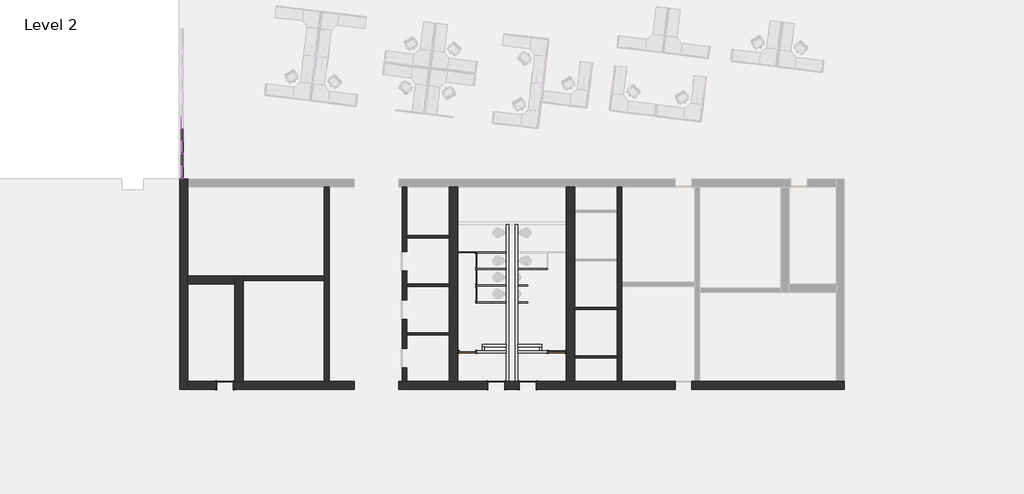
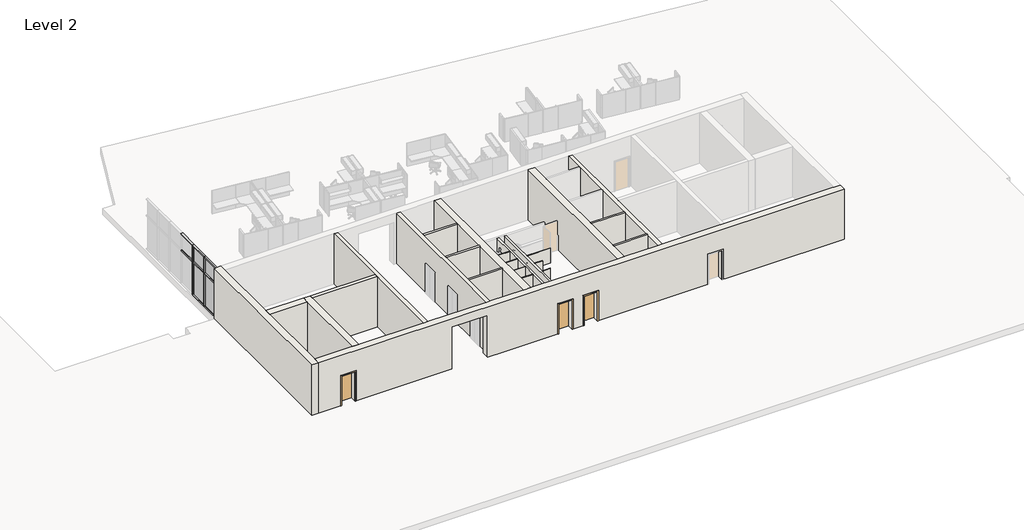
# One storey, part 1 of 7: 32 walls, 14 members, 9 doors, 4 plates.
"""IFC4 building model written with IfcOpenShell, lengths in millimetres."""

from ifc_helpers import new_model, si_unit, frame, origin, place, context, project, spatial, polyline, outline, extrude, faceted_brep, transform, mapped, element, save
from components import door_3c99239a, door_aec9db07, door_a3eb833a, door_a1797ceb, toilet_partitions_2_10_251e7a51, door_871a7840, member_9597caa3, member_b2bde9e6, member_c64c2408, member_866a01fa, member_13474e0d, member_fbf8c6f0, member_d7472725, system_panel_glazed_7f340023, system_panel_glazed_f79f5f4b, system_panel_glazed_02b69887, system_panel_glazed_e5c5d69c

model = new_model("IFC4")

# Units and contexts
model_context = context("Model", 3, world=origin())
ifc_project = project(units=[si_unit("LENGTHUNIT", "METRE", prefix="MILLI")], contexts=[model_context])

# Site, building, storey
site = spatial("IfcSite", under=ifc_project)
building = spatial("IfcBuilding", under=site)
storey = spatial("IfcBuildingStorey", under=building, Name="Level 2", Elevation=3657.6)

# Doors
placement = place(None, origin())
door_shape = door_3c99239a(model_context)
element("IfcDoor", 1, ObjectType="Single-Flush : 36\" x 84\"", at=placement, inside=storey, context=model_context, shape_type="MappedRepresentation", body=[
    mapped(door_shape, transform((-30700.0713641, -14594.8103492, 3657.6), x_axis=(1.0, 0.0, 0.0), y_axis=(0.0, 1.0, 0.0), z_axis=(0.0, 0.0, 1.0))),
])
element("IfcDoor", 2, ObjectType="Single-Flush : 36\" x 84\"", at=placement, inside=storey, context=model_context, shape_type="MappedRepresentation", body=[
    mapped(door_shape, transform((-15804.7856498, -14594.8103492, 3657.6), x_axis=(1.0, 0.0, 0.0), y_axis=(0.0, 1.0, 0.0), z_axis=(0.0, 0.0, 1.0))),
])
door_2_shape = door_aec9db07(model_context)
element("IfcDoor", 3, ObjectType="Single-Flush : 36\" x 84\"", at=placement, inside=storey, context=model_context, shape_type="MappedRepresentation", body=[
    mapped(door_2_shape, transform((-14077.5856498, -14594.8103492, 3657.6), x_axis=(-1.0, 0.0, 0.0), y_axis=(0.0, -1.0, 0.0), z_axis=(0.0, 0.0, 1.0))),
])
door_3_shape = door_a3eb833a(model_context)
element("IfcDoor", 4, ObjectType="Single-Flush : 36\" x 84\"", at=placement, inside=storey, context=model_context, shape_type="MappedRepresentation", body=[
    mapped(door_3_shape, transform((-12487.8428559, -12753.3103492, 3657.6), x_axis=(1.0, 0.0, 0.0), y_axis=(0.0, 1.0, 0.0), z_axis=(0.0, 0.0, 1.0))),
])
door_4_shape = door_a1797ceb(model_context)
element("IfcDoor", 5, ObjectType="Single-Flush : 36\" x 84\"", at=placement, inside=storey, context=model_context, shape_type="MappedRepresentation", body=[
    mapped(door_4_shape, transform((-17394.5284437, -12753.3103492, 3657.6), x_axis=(-1.0, 0.0, 0.0), y_axis=(0.0, -1.0, 0.0), z_axis=(0.0, 0.0, 1.0))),
])
toilet_partitions_2_10_shape = toilet_partitions_2_10_251e7a51(model_context)
element("IfcDoor", 6, ObjectType="toilet Partitions : 2'10", at=placement, inside=storey, context=model_context, shape_type="MappedRepresentation", body=[
    mapped(toilet_partitions_2_10_shape, transform((-17432.6284437, -7282.7853492, 3657.6), x_axis=(-1.0, 0.0, 0.0), y_axis=(0.0, -1.0, 0.0), z_axis=(0.0, 0.0, 1.0))),
])
door_5_shape = door_871a7840(model_context)
element("IfcDoor", 7, ObjectType="toilet Partitions : 2'5\"", at=placement, inside=storey, context=model_context, shape_type="MappedRepresentation", body=[
    mapped(door_5_shape, transform((-16896.9856498, -9568.7853492, 3657.6), x_axis=(0.0, -1.0, 0.0), y_axis=(1.0, 0.0, 0.0), z_axis=(0.0, 0.0, 1.0))),
])
element("IfcDoor", 8, ObjectType="toilet Partitions : 2'5\"", at=placement, inside=storey, context=model_context, shape_type="MappedRepresentation", body=[
    mapped(door_5_shape, transform((-16896.9856498, -7739.9853492, 3657.6), x_axis=(0.0, -1.0, 0.0), y_axis=(1.0, 0.0, 0.0), z_axis=(0.0, 0.0, 1.0))),
])
element("IfcDoor", 9, ObjectType="toilet Partitions : 2'5\"", at=placement, inside=storey, context=model_context, shape_type="MappedRepresentation", body=[
    mapped(door_5_shape, transform((-16896.9856498, -8654.3853492, 3657.6), x_axis=(0.0, -1.0, 0.0), y_axis=(1.0, 0.0, 0.0), z_axis=(0.0, 0.0, 1.0))),
])

# Members
member_shape = member_9597caa3(model_context)
element("IfcMember", 10, ObjectType="Rectangular Mullion : 2.5\" x 5\" rectangular", at=placement, inside=storey, context=model_context, shape_type="MappedRepresentation", body=[
    mapped(member_shape, transform((-33055.0142212, -486.5214603, 3721.1), x_axis=(0.0, -1.0, 0.0), y_axis=(-1.0, 0.0, 0.0), z_axis=(0.0, 0.0, -1.0))),
])
element("IfcMember", 11, ObjectType="Rectangular Mullion : 2.5\" x 5\" rectangular", at=placement, inside=storey, context=model_context, shape_type="MappedRepresentation", body=[
    mapped(member_shape, transform((-33055.0142212, -1863.7659048, 3721.1), x_axis=(0.0, -1.0, 0.0), y_axis=(-1.0, 0.0, 0.0), z_axis=(0.0, 0.0, -1.0))),
])
member_2_shape = member_b2bde9e6(model_context)
element("IfcMember", 12, ObjectType="Rectangular Mullion : 2.5\" x 5\" rectangular", at=placement, inside=storey, context=model_context, shape_type="MappedRepresentation", body=[
    mapped(member_2_shape, transform((-33055.0142212, -3241.0103492, 3721.1), x_axis=(0.0, -1.0, 0.0), y_axis=(-1.0, 0.0, 0.0), z_axis=(0.0, 0.0, -1.0))),
])
member_3_shape = member_c64c2408(model_context)
element("IfcMember", 13, ObjectType="Rectangular Mullion : 2.5\" x 5\" rectangular", at=placement, inside=storey, context=model_context, shape_type="MappedRepresentation", body=[
    mapped(member_3_shape, transform((-33055.0142212, -3241.0103492, 7315.2), x_axis=(0.0, 0.0, 1.0), y_axis=(-1.0, 0.0, 0.0), z_axis=(0.0, -1.0, 0.0))),
])
element("IfcMember", 14, ObjectType="Rectangular Mullion : 2.5\" x 5\" rectangular", at=placement, inside=storey, context=model_context, shape_type="MappedRepresentation", body=[
    mapped(member_3_shape, transform((-33055.0142212, -486.5214603, 7315.2), x_axis=(0.0, 0.0, 1.0), y_axis=(-1.0, 0.0, 0.0), z_axis=(0.0, -1.0, 0.0))),
])
element("IfcMember", 15, ObjectType="Rectangular Mullion : 2.5\" x 5\" rectangular", at=placement, inside=storey, context=model_context, shape_type="MappedRepresentation", body=[
    mapped(member_3_shape, transform((-33055.0142212, -1863.7659048, 7315.2), x_axis=(0.0, 0.0, 1.0), y_axis=(-1.0, 0.0, 0.0), z_axis=(0.0, -1.0, 0.0))),
])
element("IfcMember", 16, ObjectType="Rectangular Mullion : 2.5\" x 5\" rectangular", at=placement, inside=storey, context=model_context, shape_type="MappedRepresentation", body=[
    mapped(member_3_shape, transform((-33055.0142212, -486.5214603, 3657.6), x_axis=(0.0, 0.0, -1.0), y_axis=(-1.0, 0.0, 0.0), z_axis=(0.0, 1.0, 0.0))),
])
element("IfcMember", 17, ObjectType="Rectangular Mullion : 2.5\" x 5\" rectangular", at=placement, inside=storey, context=model_context, shape_type="MappedRepresentation", body=[
    mapped(member_3_shape, transform((-33055.0142212, -1863.7659048, 3657.6), x_axis=(0.0, 0.0, -1.0), y_axis=(-1.0, 0.0, 0.0), z_axis=(0.0, 1.0, 0.0))),
])
member_4_shape = member_866a01fa(model_context)
element("IfcMember", 18, ObjectType="Rectangular Mullion : 2.5\" x 5\" rectangular", at=placement, inside=storey, context=model_context, shape_type="MappedRepresentation", body=[
    mapped(member_4_shape, transform((-33055.0142212, -486.5214603, 6127.75), x_axis=(0.0, -1.0, 0.0), y_axis=(-1.0, 0.0, 0.0), z_axis=(0.0, 0.0, -1.0))),
])
element("IfcMember", 19, ObjectType="Rectangular Mullion : 2.5\" x 5\" rectangular", at=placement, inside=storey, context=model_context, shape_type="MappedRepresentation", body=[
    mapped(member_4_shape, transform((-33055.0142212, -1863.7659048, 6127.75), x_axis=(0.0, -1.0, 0.0), y_axis=(-1.0, 0.0, 0.0), z_axis=(0.0, 0.0, -1.0))),
])
member_5_shape = member_13474e0d(model_context)
element("IfcMember", 20, ObjectType="Rectangular Mullion : 2.5\" x 5\" rectangular", at=placement, inside=storey, context=model_context, shape_type="MappedRepresentation", body=[
    mapped(member_5_shape, transform((-33055.0142212, -486.5214603, 6096.0), x_axis=(0.0, 0.0, 1.0), y_axis=(-1.0, 0.0, 0.0), z_axis=(0.0, -1.0, 0.0))),
])
element("IfcMember", 21, ObjectType="Rectangular Mullion : 2.5\" x 5\" rectangular", at=placement, inside=storey, context=model_context, shape_type="MappedRepresentation", body=[
    mapped(member_5_shape, transform((-33055.0142212, -1863.7659048, 6096.0), x_axis=(0.0, 0.0, 1.0), y_axis=(-1.0, 0.0, 0.0), z_axis=(0.0, -1.0, 0.0))),
])
member_6_shape = member_fbf8c6f0(model_context)
element("IfcMember", 22, ObjectType="Rectangular Mullion : 2.5\" x 5\" rectangular", at=placement, inside=storey, context=model_context, shape_type="MappedRepresentation", body=[
    mapped(member_6_shape, transform((-33055.0142212, -3177.5103492, 6096.0), x_axis=(0.0, 0.0, 1.0), y_axis=(-1.0, 0.0, 0.0), z_axis=(0.0, -1.0, 0.0))),
])
member_7_shape = member_d7472725(model_context)
element("IfcMember", 23, ObjectType="Rectangular Mullion : 2.5\" x 5\" rectangular", at=placement, inside=storey, context=model_context, shape_type="MappedRepresentation", body=[
    mapped(member_7_shape, transform((-33055.0142212, -3241.0103492, 6096.0), x_axis=(0.0, -1.0, 0.0), y_axis=(-1.0, 0.0, 0.0), z_axis=(0.0, 0.0, -1.0))),
])

# Plates
system_panel_glazed_shape = system_panel_glazed_7f340023(model_context)
element("IfcPlate", 24, ObjectType="System Panel : Glazed", at=placement, inside=storey, context=model_context, shape_type="MappedRepresentation", body=[
    mapped(system_panel_glazed_shape, transform((-33055.0142212, -2536.513127, 3721.1), x_axis=(0.0, -1.0, 0.0), y_axis=(1.0, 0.0, 0.0), z_axis=(0.0, 0.0, 1.0))),
])
system_panel_glazed_2_shape = system_panel_glazed_f79f5f4b(model_context)
element("IfcPlate", 25, ObjectType="System Panel : Glazed", at=placement, inside=storey, context=model_context, shape_type="MappedRepresentation", body=[
    mapped(system_panel_glazed_2_shape, transform((-33055.0142212, -1175.1436825, 3721.1), x_axis=(0.0, -1.0, 0.0), y_axis=(1.0, 0.0, 0.0), z_axis=(0.0, 0.0, 1.0))),
])
system_panel_glazed_3_shape = system_panel_glazed_02b69887(model_context)
element("IfcPlate", 26, ObjectType="System Panel : Glazed", at=placement, inside=storey, context=model_context, shape_type="MappedRepresentation", body=[
    mapped(system_panel_glazed_3_shape, transform((-33055.0142212, -2536.513127, 6127.75), x_axis=(0.0, -1.0, 0.0), y_axis=(1.0, 0.0, 0.0), z_axis=(0.0, 0.0, 1.0))),
])
system_panel_glazed_4_shape = system_panel_glazed_e5c5d69c(model_context)
element("IfcPlate", 27, ObjectType="System Panel : Glazed", at=placement, inside=storey, context=model_context, shape_type="MappedRepresentation", body=[
    mapped(system_panel_glazed_4_shape, transform((-33055.0142212, -1175.1436825, 6127.75), x_axis=(0.0, -1.0, 0.0), y_axis=(1.0, 0.0, 0.0), z_axis=(0.0, 0.0, 1.0))),
])

# Walls
element("IfcWall", 28, ObjectType="Core-shaft 10\" Concrete", at=placement, inside=storey, context=model_context, shape_type="SweptSolid", body=[
    extrude(outline(polyline([(-14366.2103492, 7315.2), (-3698.2103492, 7315.2), (-3698.2103492, 3657.6), (-7222.4603492, 3657.6), (-7222.4603492, 5816.6), (-8301.9603492, 5816.6), (-8301.9603492, 3657.6), (-9889.4603492, 3657.6), (-9889.4603492, 5816.6), (-10968.9603492, 5816.6), (-10968.9603492, 3657.6), (-12556.4603492, 3657.6), (-12556.4603492, 5816.6), (-13635.9603492, 5816.6), (-13635.9603492, 3657.6), (-14366.2103492, 3657.6), (-14366.2103492, 7315.2)])), frame((-20979.1285069, 0.0, 0.0), z_axis=(1.0, 0.0, 0.0), x_axis=(0.0, 1.0, 0.0)), (0.0, 0.0, 1.0), 254.0),
])
element("IfcWall", 29, ObjectType="Core-shaft 10\" Concrete", at=placement, inside=storey, context=model_context, shape_type="Brep", body=[
    faceted_brep([(-24992.3285069, -14366.2103492, 3657.6), (-24992.3285069, -3698.2103492, 3657.6), (-24992.3285069, -3698.2103492, 7315.2), (-24992.3285069, -14366.2103492, 7315.2), (-25246.3285069, -14366.2103492, 3657.6), (-25246.3285069, -14366.2103492, 7315.2), (-25246.3285069, -8829.0103492, 7315.2), (-25246.3285069, -8575.0103492, 7315.2), (-25246.3285069, -3698.2103492, 7315.2), (-25246.3285069, -3698.2103492, 3657.6), (-25246.3285069, -8575.0103492, 3657.6), (-25246.3285069, -8829.0103492, 3657.6)], [[[0, 1, 2, 3]], [[4, 5, 6, 7, 8, 9, 10, 11]], [[1, 0, 4, 11, 10, 9]], [[3, 2, 8, 7, 6, 5]], [[0, 3, 5, 4]], [[2, 1, 9, 8]]]),
])
element("IfcWall", 30, ObjectType="Core-shaft 10\" Concrete", at=placement, inside=storey, context=model_context, shape_type="SweptSolid", body=[
    extrude(outline(polyline([(-25246.3285069, -8829.0103492), (-29709.4713641, -8829.0103492), (-29709.4713641, -8575.0103492), (-25246.3285069, -8575.0103492), (-25246.3285069, -8829.0103492)])), frame((0.0, 0.0, 3657.6), z_axis=(0.0, 0.0, 1.0), x_axis=(1.0, 0.0, 0.0)), (0.0, 0.0, 1.0), 3657.6),
])
element("IfcWall", 31, ObjectType="Core-shaft 10\" Concrete", at=placement, inside=storey, context=model_context, shape_type="SweptSolid", body=[
    extrude(outline(polyline([(-8903.2427926, -3698.2103492), (-8903.2427926, -14366.2103492), (-9157.2427926, -14366.2103492), (-9157.2427926, -3698.2103492), (-8903.2427926, -3698.2103492)])), frame((0.0, 0.0, 3657.6), z_axis=(0.0, 0.0, 1.0), x_axis=(1.0, 0.0, 0.0)), (0.0, 0.0, 1.0), 3657.6),
])
element("IfcWall", 32, ObjectType="Core-shaft 18\" Concrete", at=placement, inside=storey, context=model_context, shape_type="Brep", body=[
    faceted_brep([(-14534.7856498, -14366.2103492, 5791.2), (-14534.7856498, -14366.2103492, 3657.6), (-15347.5856498, -14366.2103492, 3657.6), (-15347.5856498, -14366.2103492, 5791.2), (-16261.9856498, -14366.2103492, 5791.2), (-16261.9856498, -14366.2103492, 3657.6), (-17927.9284437, -14366.2103492, 3657.6), (-18385.1284437, -14366.2103492, 3657.6), (-20725.1285069, -14366.2103492, 3657.6), (-20979.1285069, -14366.2103492, 3657.6), (-21167.8142212, -14366.2103492, 3657.6), (-21167.8142212, -14366.2103492, 6705.6), (-23606.2142212, -14366.2103492, 6705.6), (-23606.2142212, -14366.2103492, 3657.6), (-24992.3285069, -14366.2103492, 3657.6), (-25246.3285069, -14366.2103492, 3657.6), (-29709.4713641, -14366.2103492, 3657.6), (-30166.6713641, -14366.2103492, 3657.6), (-30242.8713641, -14366.2103492, 3657.6), (-30242.8713641, -14366.2103492, 5791.2), (-31157.2713641, -14366.2103492, 5791.2), (-31157.2713641, -14366.2103492, 3657.6), (-32750.2142212, -14366.2103492, 3657.6), (-32750.2142212, -14366.2103492, 7315.2), (-30166.6713641, -14366.2103492, 7315.2), (-29709.4713641, -14366.2103492, 7315.2), (-25246.3285069, -14366.2103492, 7315.2), (-24992.3285069, -14366.2103492, 7315.2), (-20979.1285069, -14366.2103492, 7315.2), (-20725.1285069, -14366.2103492, 7315.2), (-18385.1284437, -14366.2103492, 7315.2), (-17927.9284437, -14366.2103492, 7315.2), (-11954.4428559, -14366.2103492, 7315.2), (-11497.2428559, -14366.2103492, 7315.2), (-9157.2427926, -14366.2103492, 7315.2), (-8903.2427926, -14366.2103492, 7315.2), (-4890.0427926, -14366.2103492, 7315.2), (-4636.0427926, -14366.2103492, 7315.2), (2867.8429217, -14366.2103492, 7315.2), (3325.0429217, -14366.2103492, 7315.2), (3325.0429217, -14366.2103492, 3657.6), (2867.8429217, -14366.2103492, 3657.6), (-4636.0427926, -14366.2103492, 3657.6), (-4890.0427926, -14366.2103492, 3657.6), (-5067.8427926, -14366.2103492, 3657.6), (-5067.8427926, -14366.2103492, 5791.2), (-5982.2427926, -14366.2103492, 5791.2), (-5982.2427926, -14366.2103492, 3657.6), (-8903.2427926, -14366.2103492, 3657.6), (-9157.2427926, -14366.2103492, 3657.6), (-11497.2428559, -14366.2103492, 3657.6), (-11954.4428559, -14366.2103492, 3657.6), (-13620.3856498, -14366.2103492, 3657.6), (-13620.3856498, -14366.2103492, 5791.2), (-15347.5856498, -14823.4103492, 3657.6), (-14534.7856498, -14823.4103492, 3657.6), (-14534.7856498, -14823.4103492, 5791.2), (-13620.3856498, -14823.4103492, 5791.2), (-13620.3856498, -14823.4103492, 3657.6), (-5982.2427926, -14823.4103492, 3657.6), (-5982.2427926, -14823.4103492, 5791.2), (-5067.8427926, -14823.4103492, 5791.2), (-5067.8427926, -14823.4103492, 3657.6), (3325.0429217, -14823.4103492, 3657.6), (3325.0429217, -14823.4103492, 7315.2), (-32750.2142212, -14823.4103492, 7315.2), (-32750.2142212, -14823.4103492, 3657.6), (-31157.2713641, -14823.4103492, 3657.6), (-31157.2713641, -14823.4103492, 5791.2), (-30242.8713641, -14823.4103492, 5791.2), (-30242.8713641, -14823.4103492, 3657.6), (-23606.2142212, -14823.4103492, 3657.6), (-23606.2142212, -14823.4103492, 6705.6), (-21167.8142212, -14823.4103492, 6705.6), (-21167.8142212, -14823.4103492, 3657.6), (-16261.9856498, -14823.4103492, 3657.6), (-16261.9856498, -14823.4103492, 5791.2), (-15347.5856498, -14823.4103492, 5791.2)], [[[0, 1, 2, 3, 4, 5, 6, 7, 8, 9, 10, 11, 12, 13, 14, 15, 16, 17, 18, 19, 20, 21, 22, 23, 24, 25, 26, 27, 28, 29, 30, 31, 32, 33, 34, 35, 36, 37, 38, 39, 40, 41, 42, 43, 44, 45, 46, 47, 48, 49, 50, 51, 52, 53]], [[54, 55, 56, 57, 58, 59, 60, 61, 62, 63, 64, 65, 66, 67, 68, 69, 70, 71, 72, 73, 74, 75, 76, 77]], [[67, 66, 22, 21]], [[71, 70, 18, 17, 16, 15, 14, 13]], [[63, 62, 44, 43, 42, 41, 40]], [[75, 74, 10, 9, 8, 7, 6, 5]], [[2, 1, 55, 54]], [[52, 51, 50, 49, 48, 47, 59, 58]], [[39, 38, 37, 36, 35, 34, 33, 32, 31, 30, 29, 28, 27, 26, 25, 24, 23, 65, 64]], [[11, 73, 72, 12]], [[73, 11, 10, 74]], [[12, 72, 71, 13]], [[19, 18, 70, 69]], [[20, 19, 69, 68]], [[21, 20, 68, 67]], [[45, 44, 62, 61]], [[46, 45, 61, 60]], [[47, 46, 60, 59]], [[40, 39, 64, 63]], [[23, 22, 66, 65]], [[3, 2, 54, 77]], [[4, 3, 77, 76]], [[5, 4, 76, 75]], [[56, 55, 1, 0]], [[57, 56, 0, 53]], [[58, 57, 53, 52]]]),
])
element("IfcWall", 33, ObjectType="Core-shaft 18\" Concrete", at=placement, inside=storey, context=model_context, shape_type="Brep", body=[
    faceted_brep([(-32750.2142212, -14823.4103492, 3657.6), (-32750.2142212, -14366.2103492, 3657.6), (-32750.2142212, -9032.2103492, 3657.6), (-32750.2142212, -8575.0103492, 3657.6), (-32750.2142212, -3698.2103492, 3657.6), (-32750.2142212, -3241.0103492, 3657.6), (-32750.2142212, -3241.0103492, 7315.2), (-32750.2142212, -3698.2103492, 7315.2), (-32750.2142212, -8575.0103492, 7315.2), (-32750.2142212, -9032.2103492, 7315.2), (-32750.2142212, -14366.2103492, 7315.2), (-32750.2142212, -14823.4103492, 7315.2), (-33207.4142212, -14823.4103492, 3657.6), (-33207.4142212, -14823.4103492, 7315.2), (-33207.4142212, -3241.0103492, 7315.2), (-33207.4142212, -3241.0103492, 3657.6)], [[[0, 1, 2, 3, 4, 5, 6, 7, 8, 9, 10, 11]], [[12, 13, 14, 15]], [[5, 4, 3, 2, 1, 0, 12, 15]], [[11, 10, 9, 8, 7, 6, 14, 13]], [[0, 11, 13, 12]], [[6, 5, 15, 14]]]),
])
element("IfcWall", 34, ObjectType="Core-shaft 18\" Concrete", at=placement, inside=storey, context=model_context, shape_type="SweptSolid", body=[
    extrude(outline(polyline([(-18385.1284437, -14366.2103492), (-18385.1284437, -3698.2103492), (-17927.9284437, -3698.2103492), (-17927.9284437, -14366.2103492), (-18385.1284437, -14366.2103492)])), frame((0.0, 0.0, 3657.6), z_axis=(0.0, 0.0, 1.0), x_axis=(1.0, 0.0, 0.0)), (0.0, 0.0, 1.0), 3657.6),
])
element("IfcWall", 35, ObjectType="Core-shaft 18\" Concrete", at=placement, inside=storey, context=model_context, shape_type="Brep", body=[
    faceted_brep([(-29709.4713641, -14366.2103492, 3657.6), (-29709.4713641, -8829.0103492, 3657.6), (-29709.4713641, -8575.0103492, 3657.6), (-29709.4713641, -8575.0103492, 7315.2), (-29709.4713641, -8829.0103492, 7315.2), (-29709.4713641, -14366.2103492, 7315.2), (-30166.6713641, -14366.2103492, 3657.6), (-30166.6713641, -14366.2103492, 7315.2), (-30166.6713641, -9032.2103492, 7315.2), (-30166.6713641, -8575.0103492, 7315.2), (-30166.6713641, -8575.0103492, 3657.6), (-30166.6713641, -9032.2103492, 3657.6)], [[[0, 1, 2, 3, 4, 5]], [[6, 7, 8, 9, 10, 11]], [[2, 1, 0, 6, 11, 10]], [[5, 4, 3, 9, 8, 7]], [[3, 2, 10, 9]], [[0, 5, 7, 6]]]),
])
element("IfcWall", 36, ObjectType="Core-shaft 18\" Concrete", at=placement, inside=storey, context=model_context, shape_type="SweptSolid", body=[
    extrude(outline(polyline([(-32750.2142212, -8575.0103492), (-30166.6713641, -8575.0103492), (-30166.6713641, -9032.2103492), (-32750.2142212, -9032.2103492), (-32750.2142212, -8575.0103492)])), frame((0.0, 0.0, 3657.6), z_axis=(0.0, 0.0, 1.0), x_axis=(1.0, 0.0, 0.0)), (0.0, 0.0, 1.0), 3657.6),
])
element("IfcWall", 37, ObjectType="Core-shaft 18\" Concrete", at=placement, inside=storey, context=model_context, shape_type="SweptSolid", body=[
    extrude(outline(polyline([(-11954.4428559, -14366.2103492), (-11954.4428559, -3698.2103492), (-11497.2428559, -3698.2103492), (-11497.2428559, -14366.2103492), (-11954.4428559, -14366.2103492)])), frame((0.0, 0.0, 3657.6), z_axis=(0.0, 0.0, 1.0), x_axis=(1.0, 0.0, 0.0)), (0.0, 0.0, 1.0), 3657.6),
])
element("IfcWall", 38, ObjectType="Generic - 5\"", at=placement, inside=storey, context=model_context, shape_type="SweptSolid", body=[
    extrude(outline(polyline([(-18385.1284437, -11826.2103492), (-20725.1285069, -11826.2103492), (-20725.1285069, -11699.2103492), (-18385.1284437, -11699.2103492), (-18385.1284437, -11826.2103492)])), frame((0.0, 0.0, 3657.6), z_axis=(0.0, 0.0, 1.0), x_axis=(1.0, 0.0, 0.0)), (0.0, 0.0, 1.0), 3657.6),
])
element("IfcWall", 39, ObjectType="Generic - 5\"", at=placement, inside=storey, context=model_context, shape_type="SweptSolid", body=[
    extrude(outline(polyline([(-18385.1284437, -9159.2103492), (-20725.1285069, -9159.2103492), (-20725.1285069, -9032.2103492), (-18385.1284437, -9032.2103492), (-18385.1284437, -9159.2103492)])), frame((0.0, 0.0, 3657.6), z_axis=(0.0, 0.0, 1.0), x_axis=(1.0, 0.0, 0.0)), (0.0, 0.0, 1.0), 3657.6),
])
element("IfcWall", 40, ObjectType="Generic - 5\"", at=placement, inside=storey, context=model_context, shape_type="SweptSolid", body=[
    extrude(outline(polyline([(-18385.1284437, -6492.2103492), (-20725.1285069, -6492.2103492), (-20725.1285069, -6365.2103492), (-18385.1284437, -6365.2103492), (-18385.1284437, -6492.2103492)])), frame((0.0, 0.0, 3657.6), z_axis=(0.0, 0.0, 1.0), x_axis=(1.0, 0.0, 0.0)), (0.0, 0.0, 1.0), 3657.6),
])
element("IfcWall", 41, ObjectType="Generic - 5\"", at=placement, inside=storey, context=model_context, shape_type="SweptSolid", body=[
    extrude(outline(polyline([(-11497.2428559, -10302.2103492), (-9157.2427926, -10302.2103492), (-9157.2427926, -10429.2103492), (-11497.2428559, -10429.2103492), (-11497.2428559, -10302.2103492)])), frame((0.0, 0.0, 3657.6), z_axis=(0.0, 0.0, 1.0), x_axis=(1.0, 0.0, 0.0)), (0.0, 0.0, 1.0), 3657.6),
])
element("IfcWall", 42, ObjectType="Generic - 5\"", at=placement, inside=storey, context=model_context, shape_type="SweptSolid", body=[
    extrude(outline(polyline([(-11497.2428559, -12969.2103492), (-9157.2427926, -12969.2103492), (-9157.2427926, -13096.2103492), (-11497.2428559, -13096.2103492), (-11497.2428559, -12969.2103492)])), frame((0.0, 0.0, 3657.6), z_axis=(0.0, 0.0, 1.0), x_axis=(1.0, 0.0, 0.0)), (0.0, 0.0, 1.0), 3657.6),
])
element("IfcWall", 43, ObjectType="Interior - Generic - 5\"", at=placement, inside=storey, context=model_context, shape_type="Brep", body=[
    faceted_brep([(-15131.6856498, -14366.2103492, 3657.6), (-15131.6856498, -5742.9103492, 3657.6), (-15131.6856498, -5742.9103492, 4724.4), (-15131.6856498, -14366.2103492, 4724.4), (-15258.6856498, -14366.2103492, 3657.6), (-15258.6856498, -14366.2103492, 4724.4), (-15258.6856498, -12816.8103492, 4724.4), (-15258.6856498, -12689.8103492, 4724.4), (-15258.6856498, -12480.2603492, 4724.4), (-15258.6856498, -12353.2603492, 4724.4), (-15258.6856498, -10051.3853492, 4724.4), (-15258.6856498, -10000.5853492, 4724.4), (-15258.6856498, -9136.9853492, 4724.4), (-15258.6856498, -9086.1853492, 4724.4), (-15258.6856498, -8222.5853492, 4724.4), (-15258.6856498, -8171.7853492, 4724.4), (-15258.6856498, -7308.1853492, 4724.4), (-15258.6856498, -7257.3853492, 4724.4), (-15258.6856498, -5742.9103492, 4724.4), (-15258.6856498, -5742.9103492, 3657.6), (-15258.6856498, -7257.3853492, 3657.6), (-15258.6856498, -7308.1853492, 3657.6), (-15258.6856498, -8171.7853492, 3657.6), (-15258.6856498, -8222.5853492, 3657.6), (-15258.6856498, -9086.1853492, 3657.6), (-15258.6856498, -9136.9853492, 3657.6), (-15258.6856498, -10000.5853492, 3657.6), (-15258.6856498, -10051.3853492, 3657.6), (-15258.6856498, -12353.2603492, 3657.6), (-15258.6856498, -12480.2603492, 3657.6), (-15258.6856498, -12689.8103492, 3657.6), (-15258.6856498, -12816.8103492, 3657.6)], [[[0, 1, 2, 3]], [[4, 5, 6, 7, 8, 9, 10, 11, 12, 13, 14, 15, 16, 17, 18, 19, 20, 21, 22, 23, 24, 25, 26, 27, 28, 29, 30, 31]], [[1, 0, 4, 31, 30, 29, 28, 27, 26, 25, 24, 23, 22, 21, 20, 19]], [[3, 2, 18, 17, 16, 15, 14, 13, 12, 11, 10, 9, 8, 7, 6, 5]], [[0, 3, 5, 4]], [[2, 1, 19, 18]]]),
])
element("IfcWall", 44, ObjectType="Interior - Generic - 5\"", at=placement, inside=storey, context=model_context, shape_type="Brep", body=[
    faceted_brep([(-14623.6856498, -14366.2103492, 3657.6), (-14623.6856498, -12816.8103492, 3657.6), (-14623.6856498, -12689.8103492, 3657.6), (-14623.6856498, -12480.2603492, 3657.6), (-14623.6856498, -12353.2603492, 3657.6), (-14623.6856498, -10051.3853492, 3657.6), (-14623.6856498, -10000.5853492, 3657.6), (-14623.6856498, -9136.9853492, 3657.6), (-14623.6856498, -9086.1853492, 3657.6), (-14623.6856498, -8222.5853492, 3657.6), (-14623.6856498, -8171.7853492, 3657.6), (-14623.6856498, -7308.1853492, 3657.6), (-14623.6856498, -7257.3853492, 3657.6), (-14623.6856498, -5742.9103492, 3657.6), (-14623.6856498, -5742.9103492, 4724.4), (-14623.6856498, -7257.3853492, 4724.4), (-14623.6856498, -7308.1853492, 4724.4), (-14623.6856498, -8171.7853492, 4724.4), (-14623.6856498, -8222.5853492, 4724.4), (-14623.6856498, -9086.1853492, 4724.4), (-14623.6856498, -9136.9853492, 4724.4), (-14623.6856498, -10000.5853492, 4724.4), (-14623.6856498, -10051.3853492, 4724.4), (-14623.6856498, -12353.2603492, 4724.4), (-14623.6856498, -12480.2603492, 4724.4), (-14623.6856498, -12689.8103492, 4724.4), (-14623.6856498, -12816.8103492, 4724.4), (-14623.6856498, -14366.2103492, 4724.4), (-14750.6856498, -14366.2103492, 3657.6), (-14750.6856498, -14366.2103492, 4724.4), (-14750.6856498, -5742.9103492, 4724.4), (-14750.6856498, -5742.9103492, 3657.6)], [[[0, 1, 2, 3, 4, 5, 6, 7, 8, 9, 10, 11, 12, 13, 14, 15, 16, 17, 18, 19, 20, 21, 22, 23, 24, 25, 26, 27]], [[28, 29, 30, 31]], [[13, 12, 11, 10, 9, 8, 7, 6, 5, 4, 3, 2, 1, 0, 28, 31]], [[27, 26, 25, 24, 23, 22, 21, 20, 19, 18, 17, 16, 15, 14, 30, 29]], [[0, 27, 29, 28]], [[14, 13, 31, 30]]]),
])
element("IfcWall", 45, ObjectType="Interior - Generic - 5\"", at=placement, inside=storey, context=model_context, shape_type="Brep", body=[
    faceted_brep([(-14623.6856498, -12816.8103492, 3657.6), (-11954.4428559, -12816.8103492, 3657.6), (-11954.4428559, -12816.8103492, 4724.4), (-14623.6856498, -12816.8103492, 4724.4), (-14623.6856498, -12689.8103492, 3657.6), (-14623.6856498, -12689.8103492, 4724.4), (-13429.8856498, -12689.8103492, 4724.4), (-13302.8856498, -12689.8103492, 4724.4), (-11954.4428559, -12689.8103492, 4724.4), (-11954.4428559, -12689.8103492, 3657.6), (-13302.8856498, -12689.8103492, 3657.6), (-13429.8856498, -12689.8103492, 3657.6)], [[[0, 1, 2, 3]], [[4, 5, 6, 7, 8, 9, 10, 11]], [[1, 0, 4, 11, 10, 9]], [[3, 2, 8, 7, 6, 5]], [[0, 3, 5, 4]], [[2, 1, 9, 8]]]),
])
element("IfcWall", 46, ObjectType="Interior - Generic - 5\"", at=placement, inside=storey, context=model_context, shape_type="Brep", body=[
    faceted_brep([(-17927.9284437, -12689.8103492, 3657.6), (-17927.9284437, -12689.8103492, 4724.4), (-17851.7284437, -12689.8103492, 4724.4), (-17851.7284437, -12689.8103492, 3657.6), (-17927.9284437, -12816.8103492, 4724.4), (-17927.9284437, -12816.8103492, 3657.6), (-17851.7284437, -12816.8103492, 3657.6), (-17851.7284437, -12816.8103492, 4724.4)], [[[0, 1, 2, 3]], [[4, 5, 6, 7]], [[5, 0, 3, 6]], [[1, 4, 7, 2]], [[3, 2, 7, 6]], [[1, 0, 5, 4]]]),
    faceted_brep([(-15258.6856498, -12689.8103492, 4724.4), (-15258.6856498, -12689.8103492, 3657.6), (-16452.4856498, -12689.8103492, 3657.6), (-16579.4856498, -12689.8103492, 3657.6), (-16937.3284437, -12689.8103492, 3657.6), (-16937.3284437, -12689.8103492, 4724.4), (-16579.4856498, -12689.8103492, 4724.4), (-16452.4856498, -12689.8103492, 4724.4), (-15258.6856498, -12816.8103492, 3657.6), (-15258.6856498, -12816.8103492, 4724.4), (-16937.3284437, -12816.8103492, 4724.4), (-16937.3284437, -12816.8103492, 3657.6)], [[[0, 1, 2, 3, 4, 5, 6, 7]], [[8, 9, 10, 11]], [[1, 8, 11, 4, 3, 2]], [[9, 0, 7, 6, 5, 10]], [[5, 4, 11, 10]], [[1, 0, 9, 8]]]),
])
element("IfcWall", 47, ObjectType="Interior - Generic - 5\"", at=placement, inside=storey, context=model_context, shape_type="Brep", body=[
    faceted_brep([(-15258.6856498, -12353.2603492, 3657.6), (-16579.4856498, -12353.2603492, 3657.6), (-16579.4856498, -12353.2603492, 4724.4), (-15258.6856498, -12353.2603492, 4724.4), (-15258.6856498, -12480.2603492, 3657.6), (-15258.6856498, -12480.2603492, 4724.4), (-16452.4856498, -12480.2603492, 4724.4), (-16579.4856498, -12480.2603492, 4724.4), (-16579.4856498, -12480.2603492, 3657.6), (-16452.4856498, -12480.2603492, 3657.6)], [[[0, 1, 2, 3]], [[4, 5, 6, 7, 8, 9]], [[1, 0, 4, 9, 8]], [[3, 2, 7, 6, 5]], [[2, 1, 8, 7]], [[0, 3, 5, 4]]]),
])
element("IfcWall", 48, ObjectType="Interior - Generic - 5\"", at=placement, inside=storey, context=model_context, shape_type="SweptSolid", body=[
    extrude(outline(polyline([(-16579.4856498, -12689.8103492), (-16579.4856498, -12480.2603492), (-16452.4856498, -12480.2603492), (-16452.4856498, -12689.8103492), (-16579.4856498, -12689.8103492)])), frame((0.0, 0.0, 3657.6), z_axis=(0.0, 0.0, 1.0), x_axis=(1.0, 0.0, 0.0)), (0.0, 0.0, 1.0), 1066.8),
])
element("IfcWall", 49, ObjectType="Interior - Generic - 5\"", at=placement, inside=storey, context=model_context, shape_type="Brep", body=[
    faceted_brep([(-11954.4428559, -12816.8103492, 3657.6), (-11954.4428559, -12816.8103492, 4724.4), (-12030.6428559, -12816.8103492, 4724.4), (-12030.6428559, -12816.8103492, 3657.6), (-11954.4428559, -12689.8103492, 4724.4), (-11954.4428559, -12689.8103492, 3657.6), (-12030.6428559, -12689.8103492, 3657.6), (-12030.6428559, -12689.8103492, 4724.4)], [[[0, 1, 2, 3]], [[4, 5, 6, 7]], [[5, 0, 3, 6]], [[1, 4, 7, 2]], [[3, 2, 7, 6]], [[1, 0, 5, 4]]]),
    faceted_brep([(-14623.6856498, -12816.8103492, 4724.4), (-14623.6856498, -12816.8103492, 3657.6), (-12945.0428559, -12816.8103492, 3657.6), (-12945.0428559, -12816.8103492, 4724.4), (-14623.6856498, -12689.8103492, 3657.6), (-14623.6856498, -12689.8103492, 4724.4), (-13429.8856498, -12689.8103492, 4724.4), (-13302.8856498, -12689.8103492, 4724.4), (-12945.0428559, -12689.8103492, 4724.4), (-12945.0428559, -12689.8103492, 3657.6), (-13302.8856498, -12689.8103492, 3657.6), (-13429.8856498, -12689.8103492, 3657.6)], [[[0, 1, 2, 3]], [[4, 5, 6, 7, 8, 9, 10, 11]], [[1, 4, 11, 10, 9, 2]], [[5, 0, 3, 8, 7, 6]], [[3, 2, 9, 8]], [[1, 0, 5, 4]]]),
])
element("IfcWall", 50, ObjectType="Interior - Generic - 5\"", at=placement, inside=storey, context=model_context, shape_type="Brep", body=[
    faceted_brep([(-14623.6856498, -12480.2603492, 3657.6), (-13429.8856498, -12480.2603492, 3657.6), (-13302.8856498, -12480.2603492, 3657.6), (-13302.8856498, -12480.2603492, 4724.4), (-13429.8856498, -12480.2603492, 4724.4), (-14623.6856498, -12480.2603492, 4724.4), (-14623.6856498, -12353.2603492, 3657.6), (-14623.6856498, -12353.2603492, 4724.4), (-13302.8856498, -12353.2603492, 4724.4), (-13302.8856498, -12353.2603492, 3657.6)], [[[0, 1, 2, 3, 4, 5]], [[6, 7, 8, 9]], [[2, 1, 0, 6, 9]], [[5, 4, 3, 8, 7]], [[3, 2, 9, 8]], [[0, 5, 7, 6]]]),
])
element("IfcWall", 51, ObjectType="Interior - Generic - 5\"", at=placement, inside=storey, context=model_context, shape_type="SweptSolid", body=[
    extrude(outline(polyline([(-13429.8856498, -12689.8103492), (-13429.8856498, -12480.2603492), (-13302.8856498, -12480.2603492), (-13302.8856498, -12689.8103492), (-13429.8856498, -12689.8103492)])), frame((0.0, 0.0, 3657.6), z_axis=(0.0, 0.0, 1.0), x_axis=(1.0, 0.0, 0.0)), (0.0, 0.0, 1.0), 1066.8),
])
element("IfcWall", 52, ObjectType="Toilet Partition", at=placement, inside=storey, context=model_context, shape_type="Brep", body=[
    faceted_brep([(-16871.5856498, -7308.1853492, 3657.6), (-16871.5856498, -7308.1853492, 4724.4), (-16871.5856498, -7371.6853492, 4724.4), (-16871.5856498, -7371.6853492, 3657.6), (-16922.3856498, -7308.1853492, 4724.4), (-16922.3856498, -7308.1853492, 3657.6), (-16922.3856498, -7371.6853492, 3657.6), (-16922.3856498, -7371.6853492, 4724.4)], [[[0, 1, 2, 3]], [[4, 5, 6, 7]], [[5, 0, 3, 6]], [[1, 4, 7, 2]], [[1, 0, 5, 4]], [[3, 2, 7, 6]]]),
    faceted_brep([(-16871.5856498, -9937.0853492, 3657.6), (-16871.5856498, -9937.0853492, 4724.4), (-16871.5856498, -10000.5853492, 4724.4), (-16871.5856498, -10051.3853492, 4724.4), (-16871.5856498, -10051.3853492, 3657.6), (-16871.5856498, -10000.5853492, 3657.6), (-16922.3856498, -9937.0853492, 4724.4), (-16922.3856498, -9937.0853492, 3657.6), (-16922.3856498, -10051.3853492, 3657.6), (-16922.3856498, -10051.3853492, 4724.4)], [[[0, 1, 2, 3, 4, 5]], [[6, 7, 8, 9]], [[7, 0, 5, 4, 8]], [[1, 6, 9, 3, 2]], [[1, 0, 7, 6]], [[4, 3, 9, 8]]]),
    faceted_brep([(-16871.5856498, -9200.4853492, 4724.4), (-16871.5856498, -9200.4853492, 3657.6), (-16871.5856498, -9136.9853492, 3657.6), (-16871.5856498, -9086.1853492, 3657.6), (-16871.5856498, -9022.6853492, 3657.6), (-16871.5856498, -9022.6853492, 4724.4), (-16871.5856498, -9086.1853492, 4724.4), (-16871.5856498, -9136.9853492, 4724.4), (-16922.3856498, -9200.4853492, 3657.6), (-16922.3856498, -9200.4853492, 4724.4), (-16922.3856498, -9022.6853492, 4724.4), (-16922.3856498, -9022.6853492, 3657.6)], [[[0, 1, 2, 3, 4, 5, 6, 7]], [[8, 9, 10, 11]], [[1, 8, 11, 4, 3, 2]], [[9, 0, 7, 6, 5, 10]], [[1, 0, 9, 8]], [[5, 4, 11, 10]]]),
    faceted_brep([(-16871.5856498, -8108.2853492, 3657.6), (-16871.5856498, -8108.2853492, 4724.4), (-16871.5856498, -8171.7853492, 4724.4), (-16871.5856498, -8222.5853492, 4724.4), (-16871.5856498, -8286.0853492, 4724.4), (-16871.5856498, -8286.0853492, 3657.6), (-16871.5856498, -8222.5853492, 3657.6), (-16871.5856498, -8171.7853492, 3657.6), (-16922.3856498, -8108.2853492, 4724.4), (-16922.3856498, -8108.2853492, 3657.6), (-16922.3856498, -8286.0853492, 3657.6), (-16922.3856498, -8286.0853492, 4724.4)], [[[0, 1, 2, 3, 4, 5, 6, 7]], [[8, 9, 10, 11]], [[9, 0, 7, 6, 5, 10]], [[1, 8, 11, 4, 3, 2]], [[1, 0, 9, 8]], [[5, 4, 11, 10]]]),
])
element("IfcWall", 53, ObjectType="Toilet Partition", at=placement, inside=storey, context=model_context, shape_type="Brep", body=[
    faceted_brep([(-17927.9284437, -7257.3853492, 3657.6), (-17927.9284437, -7257.3853492, 4724.4), (-17864.4284437, -7257.3853492, 4724.4), (-17864.4284437, -7257.3853492, 3657.6), (-17927.9284437, -7308.1853492, 4724.4), (-17927.9284437, -7308.1853492, 3657.6), (-17864.4284437, -7308.1853492, 3657.6), (-17864.4284437, -7308.1853492, 4724.4)], [[[0, 1, 2, 3]], [[4, 5, 6, 7]], [[5, 0, 3, 6]], [[1, 4, 7, 2]], [[3, 2, 7, 6]], [[1, 0, 5, 4]]]),
    faceted_brep([(-15258.6856498, -7257.3853492, 4724.4), (-15258.6856498, -7257.3853492, 3657.6), (-17000.8284437, -7257.3853492, 3657.6), (-17000.8284437, -7257.3853492, 4724.4), (-15258.6856498, -7308.1853492, 3657.6), (-15258.6856498, -7308.1853492, 4724.4), (-16871.5856498, -7308.1853492, 4724.4), (-16922.3856498, -7308.1853492, 4724.4), (-17000.8284437, -7308.1853492, 4724.4), (-17000.8284437, -7308.1853492, 3657.6), (-16922.3856498, -7308.1853492, 3657.6), (-16871.5856498, -7308.1853492, 3657.6)], [[[0, 1, 2, 3]], [[4, 5, 6, 7, 8, 9, 10, 11]], [[1, 4, 11, 10, 9, 2]], [[5, 0, 3, 8, 7, 6]], [[3, 2, 9, 8]], [[1, 0, 5, 4]]]),
])
element("IfcWall", 54, ObjectType="Toilet Partition", at=placement, inside=storey, context=model_context, shape_type="SweptSolid", body=[
    extrude(outline(polyline([(-16871.5856498, -10000.5853492), (-15258.6856498, -10000.5853492), (-15258.6856498, -10051.3853492), (-16871.5856498, -10051.3853492), (-16871.5856498, -10000.5853492)])), frame((0.0, 0.0, 3657.6), z_axis=(0.0, 0.0, 1.0), x_axis=(1.0, 0.0, 0.0)), (0.0, 0.0, 1.0), 1066.8),
])
element("IfcWall", 55, ObjectType="Toilet Partition", at=placement, inside=storey, context=model_context, shape_type="SweptSolid", body=[
    extrude(outline(polyline([(-16871.5856498, -8171.7853492), (-15258.6856498, -8171.7853492), (-15258.6856498, -8222.5853492), (-16871.5856498, -8222.5853492), (-16871.5856498, -8171.7853492)])), frame((0.0, 0.0, 3657.6), z_axis=(0.0, 0.0, 1.0), x_axis=(1.0, 0.0, 0.0)), (0.0, 0.0, 1.0), 1066.8),
])
element("IfcWall", 56, ObjectType="Toilet Partition", at=placement, inside=storey, context=model_context, shape_type="SweptSolid", body=[
    extrude(outline(polyline([(-14077.5856498, -10051.3853492), (-14623.6856498, -10051.3853492), (-14623.6856498, -10000.5853492), (-14077.5856498, -10000.5853492), (-14077.5856498, -10051.3853492)])), frame((0.0, 0.0, 3657.6), z_axis=(0.0, 0.0, 1.0), x_axis=(1.0, 0.0, 0.0)), (0.0, 0.0, 1.0), 1066.8),
])
element("IfcWall", 57, ObjectType="Toilet Partition", at=placement, inside=storey, context=model_context, shape_type="SweptSolid", body=[
    extrude(outline(polyline([(-13010.7856498, -8222.5853492), (-14623.6856498, -8222.5853492), (-14623.6856498, -8171.7853492), (-13010.7856498, -8171.7853492), (-13010.7856498, -8222.5853492)])), frame((0.0, 0.0, 3657.6), z_axis=(0.0, 0.0, 1.0), x_axis=(1.0, 0.0, 0.0)), (0.0, 0.0, 1.0), 1066.8),
])
element("IfcWall", 58, ObjectType="Toilet Partition", at=placement, inside=storey, context=model_context, shape_type="SweptSolid", body=[
    extrude(outline(polyline([(-16871.5856498, -9086.1853492), (-15258.6856498, -9086.1853492), (-15258.6856498, -9136.9853492), (-16871.5856498, -9136.9853492), (-16871.5856498, -9086.1853492)])), frame((0.0, 0.0, 3657.6), z_axis=(0.0, 0.0, 1.0), x_axis=(1.0, 0.0, 0.0)), (0.0, 0.0, 1.0), 1066.8),
])
element("IfcWall", 59, ObjectType="Toilet Partition", at=placement, inside=storey, context=model_context, shape_type="SweptSolid", body=[
    extrude(outline(polyline([(-14077.5856498, -9136.9853492), (-14623.6856498, -9136.9853492), (-14623.6856498, -9086.1853492), (-14077.5856498, -9086.1853492), (-14077.5856498, -9136.9853492)])), frame((0.0, 0.0, 3657.6), z_axis=(0.0, 0.0, 1.0), x_axis=(1.0, 0.0, 0.0)), (0.0, 0.0, 1.0), 1066.8),
])

save(model, "model.ifc")
